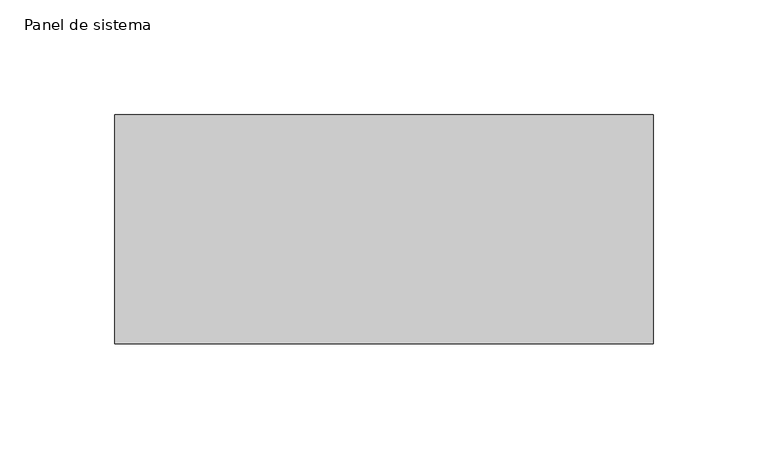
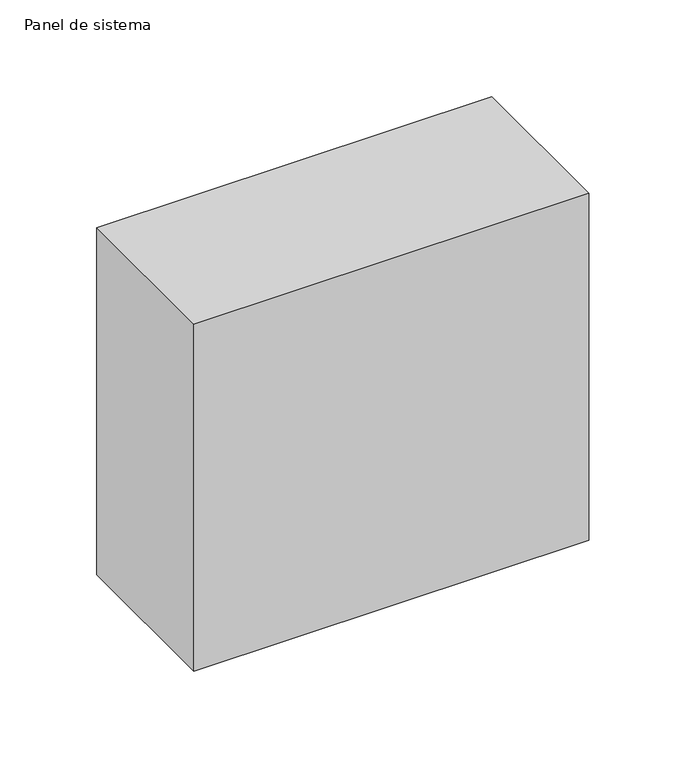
"""IFC4 building model written with IfcOpenShell, lengths in millimetres: plate geometry, Panel de sistema : PAVES."""

import ifcopenshell
import ifcopenshell.guid

model = None  # the IFC model being written
_history = None  # IfcOwnerHistory: only IFC2X3 demands one
_inside = {}  # id of a spatial element -> (the spatial element, [elements in it])
_under = {}  # id of a project, library or spatial element -> (it, [spatial elements below it])
_declared = {}  # id of a project -> (the project, [libraries it declares])
_typed = {}  # id of a type object -> (the type object, [elements of that type])
_made_of = {}  # id of a material, layer set ... -> (it, [elements and type objects made of it])


def new_model(schema):
    """Start an empty IFC model of exactly this schema.

    Asked for "IFC4X3", IfcOpenShell would pick the latest addendum, in which some entities
    have other attributes; the version numbers below select the first issue.
    IFC2X3 requires an IfcOwnerHistory on every rooted entity: one is made here for all.
    """
    global model, _history
    if schema == "IFC4X3":
        model = ifcopenshell.file(schema_version=(4, 3, 0, 0))
    else:
        model = ifcopenshell.file(schema=schema)
    _inside.clear()
    _under.clear()
    _declared.clear()
    _typed.clear()
    _made_of.clear()
    _history = None
    if model.schema == "IFC2X3":
        org = make("IfcOrganization", Name="unknown")
        user = make(
            "IfcPersonAndOrganization",
            ThePerson=make("IfcPerson", FamilyName="unknown"),
            TheOrganization=org,
        )
        app = make(
            "IfcApplication",
            ApplicationDeveloper=org,
            Version="unknown",
            ApplicationFullName="unknown",
            ApplicationIdentifier="unknown",
        )
        _history = make(
            "IfcOwnerHistory",
            OwningUser=user,
            OwningApplication=app,
            ChangeAction="ADDED",
            CreationDate=0,
        )
    return model


def make(cls, **values):
    """One entity of the class cls with the attributes given. An attribute that is None is left unset."""
    return model.create_entity(
        cls, **{name: value for name, value in values.items() if value is not None}
    )


def rooted(cls, **values):
    """An entity with a GlobalId (a new one), such as an element, a storey or a relation."""
    return make(cls, GlobalId=ifcopenshell.guid.new(), OwnerHistory=_history, **values)


def si_unit(unit_type, name, prefix=None):
    """IfcSIUnit, for example si_unit("LENGTHUNIT", "METRE", prefix="MILLI")."""
    return make("IfcSIUnit", UnitType=unit_type, Prefix=prefix, Name=name)


def assignment(units):
    """IfcUnitAssignment: the units of a project."""
    return None if units is None else make("IfcUnitAssignment", Units=units)


def point(xyz):
    """IfcCartesianPoint."""
    return None if xyz is None else make("IfcCartesianPoint", Coordinates=xyz)


def direction(xyz):
    """IfcDirection."""
    return None if xyz is None else make("IfcDirection", DirectionRatios=xyz)


def frame(location, z_axis=None, x_axis=None):
    """IfcAxis2Placement3D, a coordinate frame: its origin and axes. An axis left out is left unset."""
    return make(
        "IfcAxis2Placement3D",
        Location=point(location),
        Axis=direction(z_axis),
        RefDirection=direction(x_axis),
    )


def origin():
    """The frame at (0, 0, 0) with its axes left unset."""
    return frame((0.0, 0.0, 0.0))


def origin_with_axes():
    """The frame at (0, 0, 0) with the z axis (0, 0, 1) and the x axis (1, 0, 0) written out."""
    return frame((0.0, 0.0, 0.0), z_axis=(0.0, 0.0, 1.0), x_axis=(1.0, 0.0, 0.0))


def place(relative_to, where):
    """IfcLocalPlacement: puts the frame where relative to a parent placement (None: the world)."""
    return make(
        "IfcLocalPlacement", PlacementRelTo=relative_to, RelativePlacement=where
    )


def context(
    kind, dimensions, precision=None, world=None, true_north=None, identifier=None
):
    """IfcGeometricRepresentationContext, for example the 3D "Model" context."""
    return make(
        "IfcGeometricRepresentationContext",
        ContextIdentifier=identifier,
        ContextType=kind,
        CoordinateSpaceDimension=dimensions,
        Precision=precision,
        WorldCoordinateSystem=world,
        TrueNorth=true_north,
    )


def project(units=None, contexts=None):
    """IfcProject with its units and contexts."""
    return rooted(
        "IfcProject",
        Name="project",
        RepresentationContexts=contexts,
        UnitsInContext=assignment(units),
    )


def spatial(cls, under=None, at=None, **own):
    """A site, building, storey or space (cls), placed at a placement, below another one or the project."""
    s = rooted(cls, ObjectPlacement=at, **own)
    if under is not None:
        _under.setdefault(under.id(), (under, []))[1].append(s)
    return s


def polyline(points):
    """IfcPolyline through the points."""
    return make("IfcPolyline", Points=[point(p) for p in points])


def outline(outer, holes=None, kind="AREA"):
    """IfcArbitraryClosedProfileDef: a profile drawn as a closed curve; with holes, ...WithVoids."""
    if holes is None:
        return make("IfcArbitraryClosedProfileDef", ProfileType=kind, OuterCurve=outer)
    return make(
        "IfcArbitraryProfileDefWithVoids",
        ProfileType=kind,
        OuterCurve=outer,
        InnerCurves=holes,
    )


def extrude(swept, where, along, depth):
    """IfcExtrudedAreaSolid: the profile swept, set in the frame where, extruded along a direction by depth."""
    return make(
        "IfcExtrudedAreaSolid",
        SweptArea=swept,
        Position=where,
        ExtrudedDirection=direction(along),
        Depth=depth,
    )


def shape(context_of_items, identifier, shape_type, items):
    """IfcShapeRepresentation: the items that make up one representation, for example the "Body"."""
    return make(
        "IfcShapeRepresentation",
        ContextOfItems=context_of_items,
        RepresentationIdentifier=identifier,
        RepresentationType=shape_type,
        Items=items,
    )


def source(mapping_origin, context_of_items, identifier, shape_type, items):
    """IfcRepresentationMap: a shape defined once, which mapped items show again and again."""
    return make(
        "IfcRepresentationMap",
        MappingOrigin=mapping_origin,
        MappedRepresentation=shape(context_of_items, identifier, shape_type, items),
    )


def transform(
    local_origin,
    x_axis=None,
    y_axis=None,
    z_axis=None,
    scale=None,
    scale2=None,
    scale3=None,
    uniform=True,
):
    """IfcCartesianTransformationOperator3D, or its non-uniform kind. x_axis, y_axis, z_axis: its Axis1, 2, 3."""
    if uniform:
        return make(
            "IfcCartesianTransformationOperator3D",
            Axis1=direction(x_axis),
            Axis2=direction(y_axis),
            LocalOrigin=point(local_origin),
            Scale=scale,
            Axis3=direction(z_axis),
        )
    return make(
        "IfcCartesianTransformationOperator3DnonUniform",
        Axis1=direction(x_axis),
        Axis2=direction(y_axis),
        LocalOrigin=point(local_origin),
        Scale=scale,
        Axis3=direction(z_axis),
        Scale2=scale2,
        Scale3=scale3,
    )


def mapped(mapping_source, mapping_target):
    """IfcMappedItem: shows the shape of a source again, moved by a transform."""
    return make(
        "IfcMappedItem", MappingSource=mapping_source, MappingTarget=mapping_target
    )


def made_of(thing, what):
    """Note that an element or type object is made of a material, layer set ...; save() writes the relation."""
    if what is not None:
        _made_of.setdefault(what.id(), (what, []))[1].append(thing)
    return thing


def element(
    cls,
    number,
    at=None,
    inside=None,
    cuts=None,
    type_object=None,
    material=None,
    context=None,
    identifier="Body",
    shape_type=None,
    held_by="IfcProductDefinitionShape",
    body=None,
    shapes=None,
    **own,
):
    """One element of the class cls, such as IfcWall. Its Tag is "e" and its number.

    at: its placement. inside: the storey or other place that contains it. cuts: it is an
    opening in that element (IfcRelVoidsElement). A single representation is given by context,
    identifier, shape_type and body (its items); several are given by shapes. held_by: the class
    of the entity that holds the representations. save() writes the other relations.
    """
    e = rooted(cls, Tag="e%d" % number, ObjectPlacement=at, **own)
    if body is not None:
        shapes = [shape(context, identifier, shape_type, body)]
    if shapes is not None:
        e.Representation = make(held_by, Representations=shapes)
    if inside is not None:
        _inside.setdefault(inside.id(), (inside, []))[1].append(e)
    if cuts is not None:
        rooted(
            "IfcRelVoidsElement", RelatingBuildingElement=cuts, RelatedOpeningElement=e
        )
    if type_object is not None:
        _typed.setdefault(type_object.id(), (type_object, []))[1].append(e)
    return made_of(e, material)


def aggregate(whole, parts):
    """IfcRelAggregates: a whole, such as a stair, and the parts it consists of."""
    return rooted("IfcRelAggregates", RelatingObject=whole, RelatedObjects=parts)


def save(model, path):
    """Write the relations noted so far, then the file.

    IfcRelAggregates (storeys below a building ...), IfcRelContainedInSpatialStructure (elements
    in a storey), IfcRelDefinesByType, IfcRelAssociatesMaterial and IfcRelDeclares: one each for
    every whole, place, type object, material and project.
    """
    for whole, parts in _under.values():
        aggregate(whole, parts)
    for where, things in _inside.values():
        rooted(
            "IfcRelContainedInSpatialStructure",
            RelatedElements=things,
            RelatingStructure=where,
        )
    for kind, things in _typed.values():
        rooted("IfcRelDefinesByType", RelatedObjects=things, RelatingType=kind)
    for what, things in _made_of.values():
        rooted("IfcRelAssociatesMaterial", RelatedObjects=things, RelatingMaterial=what)
    for by, libraries in _declared.values():
        rooted("IfcRelDeclares", RelatingContext=by, RelatedDefinitions=libraries)
    model.write(path)


def panel_de_sistema_efafee70(model_context):
    return source(origin(), model_context, "Body", "SweptSolid", [
        extrude(outline(polyline([(117.5, -50.0), (-117.5, -50.0), (-117.5, 50.0), (117.5, 50.0), (117.5, -50.0)])), origin_with_axes(), (0.0, 0.0, 1.0), 218.3333333),
    ])


if __name__ == "__main__":
    model = new_model("IFC4")
    model_context = context("Model", 3, world=origin())
    ifc_project = project(units=[si_unit("LENGTHUNIT", "METRE", prefix="MILLI")], contexts=[model_context])
    site = spatial("IfcSite", under=ifc_project)
    building = spatial("IfcBuilding", under=site)
    placement = place(None, origin())
    panel_de_sistema_shape = panel_de_sistema_efafee70(model_context)
    element("IfcPlate", 1, ObjectType="Panel de sistema : PAVES", at=placement, inside=building, context=model_context, shape_type="MappedRepresentation", body=[
        mapped(panel_de_sistema_shape, transform((0.0, 0.0, 0.0), x_axis=(1.0, 0.0, 0.0), y_axis=(0.0, 1.0, 0.0), z_axis=(0.0, 0.0, 1.0))),
    ])
    save(model, "model.ifc")
